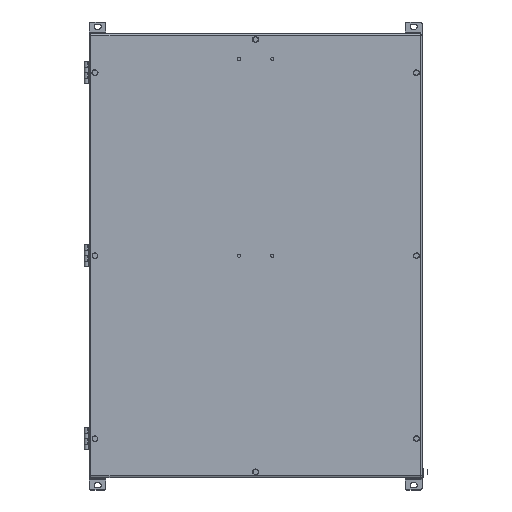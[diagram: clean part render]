
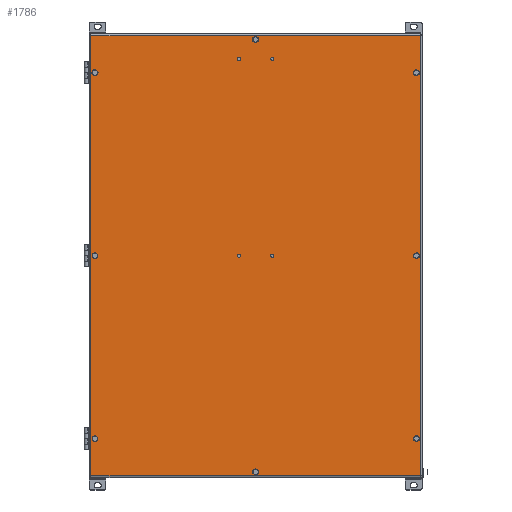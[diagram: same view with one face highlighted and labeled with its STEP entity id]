
A CAD part, top view. The second image highlights one B-rep face of the part: STEP entity #1786.
In plain terms, the highlighted planar face has unit normal (0, 0, 1).
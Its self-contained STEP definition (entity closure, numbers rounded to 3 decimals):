
#1172=CARTESIAN_POINT('',(297.,-397.0,300.5));
#1173=VERTEX_POINT('',#1172);
#1239=CARTESIAN_POINT('',(297.,397.0,300.5));
#1240=VERTEX_POINT('',#1239);
#1346=CARTESIAN_POINT('',(-297.,-397.0,300.5));
#1347=VERTEX_POINT('',#1346);
#1362=CARTESIAN_POINT('',(297.,-397.0,300.5));
#1363=DIRECTION('',(-1.0,0.0,0.0));
#1364=VECTOR('',#1363,594.);
#1365=LINE('',#1362,#1364);
#1366=EDGE_CURVE('',#1173,#1347,#1365,.T.);
#1418=CARTESIAN_POINT('',(-297.0,397.0,300.5));
#1419=VERTEX_POINT('',#1418);
#1440=CARTESIAN_POINT('',(-297.,-397.,300.5));
#1441=DIRECTION('',(0.0,1.0,0.0));
#1442=VECTOR('',#1441,794.0);
#1443=LINE('',#1440,#1442);
#1444=EDGE_CURVE('',#1347,#1419,#1443,.T.);
#1468=CARTESIAN_POINT('',(-297.0,397.0,300.5));
#1469=DIRECTION('',(1.0,0.0,0.0));
#1470=VECTOR('',#1469,594.0);
#1471=LINE('',#1468,#1470);
#1472=EDGE_CURVE('',#1419,#1240,#1471,.T.);
#1490=CARTESIAN_POINT('',(297.,397.0,300.5));
#1491=DIRECTION('',(0.0,-1.0,0.0));
#1492=VECTOR('',#1491,794.0);
#1493=LINE('',#1490,#1492);
#1494=EDGE_CURVE('',#1240,#1173,#1493,.T.);
#1643=CARTESIAN_POINT('',(0.,0.,300.5));
#1644=DIRECTION('',(0.0,0.0,1.0));
#1645=DIRECTION('',(1.0,0.0,0.0));
#1646=AXIS2_PLACEMENT_3D('',#1643,#1644,#1645);
#1647=PLANE('',#1646);
#1648=ORIENTED_EDGE('',*,*,#1366,.F.);
#1649=ORIENTED_EDGE('',*,*,#1494,.F.);
#1650=ORIENTED_EDGE('',*,*,#1472,.F.);
#1651=ORIENTED_EDGE('',*,*,#1444,.F.);
#1652=EDGE_LOOP('',(#1648,#1649,#1650,#1651));
#1653=FACE_OUTER_BOUND('',#1652,.T.);
#1654=CARTESIAN_POINT('',(-286.25,330.0,300.5));
#1655=VERTEX_POINT('',#1654);
#1656=CARTESIAN_POINT('',(-290.,330.0,300.5));
#1657=DIRECTION('',(0.0,0.0,-1.0));
#1658=DIRECTION('',(-1.0,0.0,0.0));
#1659=AXIS2_PLACEMENT_3D('',#1656,#1657,#1658);
#1660=CIRCLE('',#1659,3.75);
#1661=EDGE_CURVE('',#1655,#1655,#1660,.T.);
#1662=ORIENTED_EDGE('',*,*,#1661,.T.);
#1663=EDGE_LOOP('',(#1662));
#1664=FACE_BOUND('',#1663,.T.);
#1665=CARTESIAN_POINT('',(293.75,330.0,300.5));
#1666=VERTEX_POINT('',#1665);
#1667=CARTESIAN_POINT('',(290.,330.0,300.5));
#1668=DIRECTION('',(0.0,0.0,-1.0));
#1669=DIRECTION('',(-1.0,0.0,0.0));
#1670=AXIS2_PLACEMENT_3D('',#1667,#1668,#1669);
#1671=CIRCLE('',#1670,3.75);
#1672=EDGE_CURVE('',#1666,#1666,#1671,.T.);
#1673=ORIENTED_EDGE('',*,*,#1672,.T.);
#1674=EDGE_LOOP('',(#1673));
#1675=FACE_BOUND('',#1674,.T.);
#1676=CARTESIAN_POINT('',(-286.25,0.,300.5));
#1677=VERTEX_POINT('',#1676);
#1678=CARTESIAN_POINT('',(-290.,0.,300.5));
#1679=DIRECTION('',(0.0,0.0,-1.0));
#1680=DIRECTION('',(-1.0,0.0,0.0));
#1681=AXIS2_PLACEMENT_3D('',#1678,#1679,#1680);
#1682=CIRCLE('',#1681,3.75);
#1683=EDGE_CURVE('',#1677,#1677,#1682,.T.);
#1684=ORIENTED_EDGE('',*,*,#1683,.T.);
#1685=EDGE_LOOP('',(#1684));
#1686=FACE_BOUND('',#1685,.T.);
#1687=CARTESIAN_POINT('',(293.75,0.,300.5));
#1688=VERTEX_POINT('',#1687);
#1689=CARTESIAN_POINT('',(290.,0.,300.5));
#1690=DIRECTION('',(0.0,0.0,-1.0));
#1691=DIRECTION('',(-1.0,0.0,0.0));
#1692=AXIS2_PLACEMENT_3D('',#1689,#1690,#1691);
#1693=CIRCLE('',#1692,3.75);
#1694=EDGE_CURVE('',#1688,#1688,#1693,.T.);
#1695=ORIENTED_EDGE('',*,*,#1694,.T.);
#1696=EDGE_LOOP('',(#1695));
#1697=FACE_BOUND('',#1696,.T.);
#1698=CARTESIAN_POINT('',(-286.25,-330.0,300.5));
#1699=VERTEX_POINT('',#1698);
#1700=CARTESIAN_POINT('',(-290.,-330.0,300.5));
#1701=DIRECTION('',(0.0,0.0,-1.0));
#1702=DIRECTION('',(-1.0,0.0,0.0));
#1703=AXIS2_PLACEMENT_3D('',#1700,#1701,#1702);
#1704=CIRCLE('',#1703,3.75);
#1705=EDGE_CURVE('',#1699,#1699,#1704,.T.);
#1706=ORIENTED_EDGE('',*,*,#1705,.T.);
#1707=EDGE_LOOP('',(#1706));
#1708=FACE_BOUND('',#1707,.T.);
#1709=CARTESIAN_POINT('',(293.75,-330.0,300.5));
#1710=VERTEX_POINT('',#1709);
#1711=CARTESIAN_POINT('',(290.,-330.0,300.5));
#1712=DIRECTION('',(0.0,0.0,-1.0));
#1713=DIRECTION('',(-1.0,0.0,0.0));
#1714=AXIS2_PLACEMENT_3D('',#1711,#1712,#1713);
#1715=CIRCLE('',#1714,3.75);
#1716=EDGE_CURVE('',#1710,#1710,#1715,.T.);
#1717=ORIENTED_EDGE('',*,*,#1716,.T.);
#1718=EDGE_LOOP('',(#1717));
#1719=FACE_BOUND('',#1718,.T.);
#1720=CARTESIAN_POINT('',(3.75,390.0,300.5));
#1721=VERTEX_POINT('',#1720);
#1722=CARTESIAN_POINT('',(0.,390.0,300.5));
#1723=DIRECTION('',(0.0,0.0,-1.0));
#1724=DIRECTION('',(-1.0,0.0,0.0));
#1725=AXIS2_PLACEMENT_3D('',#1722,#1723,#1724);
#1726=CIRCLE('',#1725,3.75);
#1727=EDGE_CURVE('',#1721,#1721,#1726,.T.);
#1728=ORIENTED_EDGE('',*,*,#1727,.T.);
#1729=EDGE_LOOP('',(#1728));
#1730=FACE_BOUND('',#1729,.T.);
#1731=CARTESIAN_POINT('',(3.75,-390.0,300.5));
#1732=VERTEX_POINT('',#1731);
#1733=CARTESIAN_POINT('',(0.,-390.0,300.5));
#1734=DIRECTION('',(0.0,0.0,-1.0));
#1735=DIRECTION('',(-1.0,0.0,0.0));
#1736=AXIS2_PLACEMENT_3D('',#1733,#1734,#1735);
#1737=CIRCLE('',#1736,3.75);
#1738=EDGE_CURVE('',#1732,#1732,#1737,.T.);
#1739=ORIENTED_EDGE('',*,*,#1738,.T.);
#1740=EDGE_LOOP('',(#1739));
#1741=FACE_BOUND('',#1740,.T.);
#1742=CARTESIAN_POINT('',(33.05,355.0,300.5));
#1743=VERTEX_POINT('',#1742);
#1744=CARTESIAN_POINT('',(30.,355.0,300.5));
#1745=DIRECTION('',(0.0,0.0,-1.0));
#1746=DIRECTION('',(-1.0,0.0,0.0));
#1747=AXIS2_PLACEMENT_3D('',#1744,#1745,#1746);
#1748=CIRCLE('',#1747,3.05);
#1749=EDGE_CURVE('',#1743,#1743,#1748,.T.);
#1750=ORIENTED_EDGE('',*,*,#1749,.T.);
#1751=EDGE_LOOP('',(#1750));
#1752=FACE_BOUND('',#1751,.T.);
#1753=CARTESIAN_POINT('',(-26.95,355.0,300.5));
#1754=VERTEX_POINT('',#1753);
#1755=CARTESIAN_POINT('',(-30.,355.0,300.5));
#1756=DIRECTION('',(0.0,0.0,-1.0));
#1757=DIRECTION('',(-1.0,0.0,0.0));
#1758=AXIS2_PLACEMENT_3D('',#1755,#1756,#1757);
#1759=CIRCLE('',#1758,3.05);
#1760=EDGE_CURVE('',#1754,#1754,#1759,.T.);
#1761=ORIENTED_EDGE('',*,*,#1760,.T.);
#1762=EDGE_LOOP('',(#1761));
#1763=FACE_BOUND('',#1762,.T.);
#1764=CARTESIAN_POINT('',(-26.95,0.,300.5));
#1765=VERTEX_POINT('',#1764);
#1766=CARTESIAN_POINT('',(-30.,0.,300.5));
#1767=DIRECTION('',(0.0,0.0,-1.0));
#1768=DIRECTION('',(-1.0,0.0,0.0));
#1769=AXIS2_PLACEMENT_3D('',#1766,#1767,#1768);
#1770=CIRCLE('',#1769,3.05);
#1771=EDGE_CURVE('',#1765,#1765,#1770,.T.);
#1772=ORIENTED_EDGE('',*,*,#1771,.T.);
#1773=EDGE_LOOP('',(#1772));
#1774=FACE_BOUND('',#1773,.T.);
#1775=CARTESIAN_POINT('',(33.05,0.,300.5));
#1776=VERTEX_POINT('',#1775);
#1777=CARTESIAN_POINT('',(30.,0.,300.5));
#1778=DIRECTION('',(0.0,0.0,-1.0));
#1779=DIRECTION('',(-1.0,0.0,0.0));
#1780=AXIS2_PLACEMENT_3D('',#1777,#1778,#1779);
#1781=CIRCLE('',#1780,3.05);
#1782=EDGE_CURVE('',#1776,#1776,#1781,.T.);
#1783=ORIENTED_EDGE('',*,*,#1782,.T.);
#1784=EDGE_LOOP('',(#1783));
#1785=FACE_BOUND('',#1784,.T.);
#1786=ADVANCED_FACE('',(#1653,#1664,#1675,#1686,#1697,#1708,#1719,#1730,#1741,#1752,#1763,#1774,#1785),#1647,.T.);
